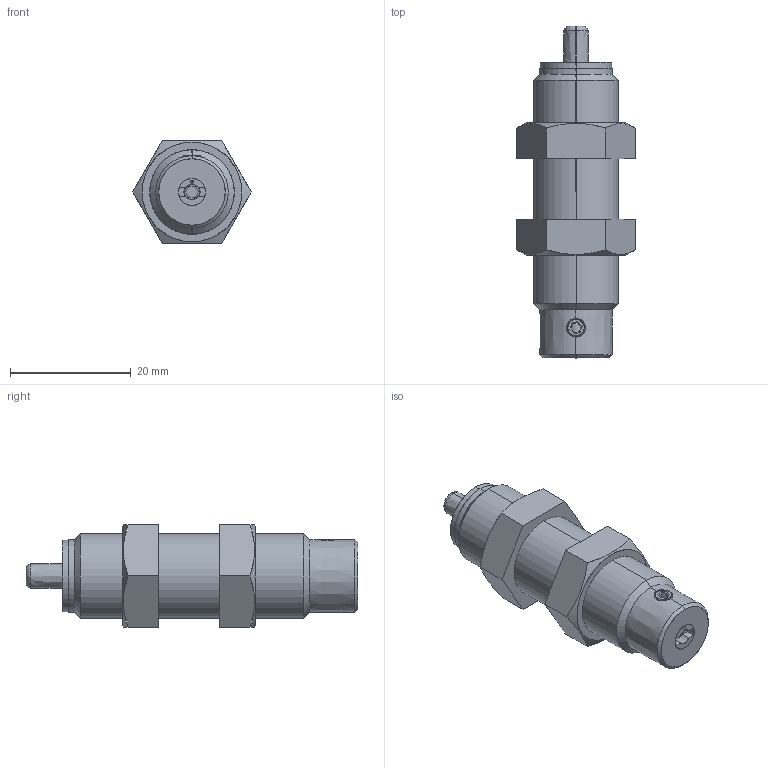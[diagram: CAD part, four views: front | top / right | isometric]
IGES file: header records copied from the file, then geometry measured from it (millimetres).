
Start section: SolidWorks IGES file using analytic representation for surfaces
Bounding box: 19.63 x 55 x 17 mm (x, y, z)
Surface area: 4864.6 mm2 (no closed solid volume)
Topology: 0 solids, 0 shells, 83 faces, 1190 edges, 1188 vertices
Faces by surface type: bspline 45, revolution 38
